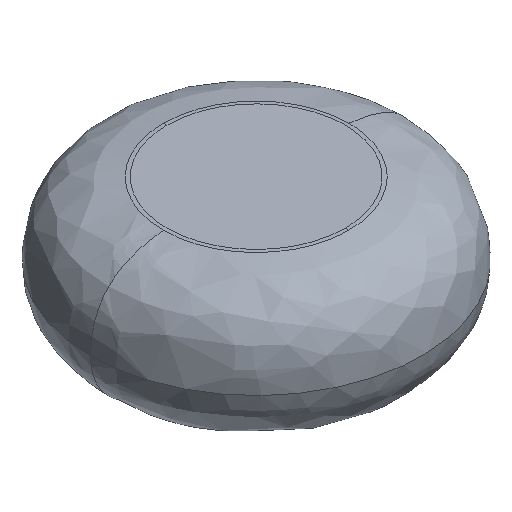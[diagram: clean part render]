
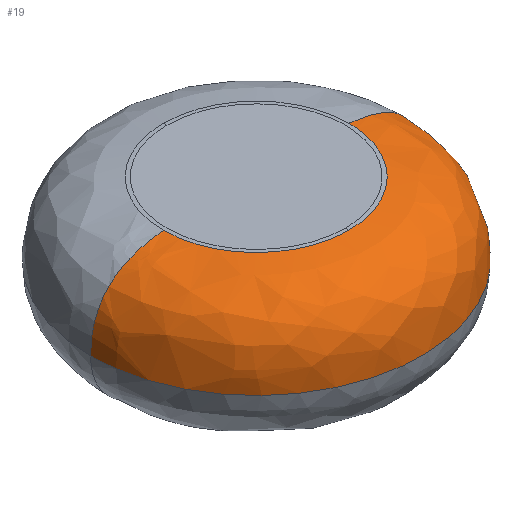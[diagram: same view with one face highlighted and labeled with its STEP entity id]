
A CAD part, isometric view. The second image highlights one B-rep face of the part: STEP entity #19.
In plain terms, the highlighted free-form (B-spline) face has degree [3, 3] with [4, 4] control points.
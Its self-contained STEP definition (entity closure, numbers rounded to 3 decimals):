
#19=ADVANCED_FACE('',(#29),#153,.T.);
#29=FACE_OUTER_BOUND('',#39,.T.);
#39=EDGE_LOOP('',(#65,#66,#67,#68,#69));
#65=ORIENTED_EDGE('',*,*,#103,.F.);
#66=ORIENTED_EDGE('',*,*,#104,.T.);
#67=ORIENTED_EDGE('',*,*,#92,.F.);
#68=ORIENTED_EDGE('',*,*,#100,.F.);
#69=ORIENTED_EDGE('',*,*,#107,.F.);
#92=EDGE_CURVE('',#140,#136,#114,.T.);
#100=EDGE_CURVE('',#146,#140,#122,.T.);
#103=EDGE_CURVE('',#135,#138,#125,.T.);
#104=EDGE_CURVE('',#135,#136,#126,.T.);
#107=EDGE_CURVE('',#138,#146,#129,.T.);
#114=(
BOUNDED_CURVE()
B_SPLINE_CURVE(3,(#603,#604,#605,#606),.UNSPECIFIED.,.F.,.F.)
B_SPLINE_CURVE_WITH_KNOTS((4,4),(-0.987,0.),.UNSPECIFIED.)
CURVE()
GEOMETRIC_REPRESENTATION_ITEM()
RATIONAL_B_SPLINE_CURVE((1.,1.,1.,1.))
REPRESENTATION_ITEM('')
);
#122=(
BOUNDED_CURVE()
B_SPLINE_CURVE(2,(#632,#633,#634),.UNSPECIFIED.,.F.,.F.)
B_SPLINE_CURVE_WITH_KNOTS((3,3),(-351.693,0.),.UNSPECIFIED.)
CURVE()
GEOMETRIC_REPRESENTATION_ITEM()
RATIONAL_B_SPLINE_CURVE((1.,0.707,1.))
REPRESENTATION_ITEM('')
);
#125=(
BOUNDED_CURVE()
B_SPLINE_CURVE(3,(#641,#642,#643,#644),.UNSPECIFIED.,.F.,.F.)
B_SPLINE_CURVE_WITH_KNOTS((4,4),(0.,0.987),.UNSPECIFIED.)
CURVE()
GEOMETRIC_REPRESENTATION_ITEM()
RATIONAL_B_SPLINE_CURVE((1.,1.,1.,1.))
REPRESENTATION_ITEM('')
);
#126=(
BOUNDED_CURVE()
B_SPLINE_CURVE(3,(#645,#646,#647,#648),.UNSPECIFIED.,.F.,.F.)
B_SPLINE_CURVE_WITH_KNOTS((4,4),(-1256.637,0.),.UNSPECIFIED.)
CURVE()
GEOMETRIC_REPRESENTATION_ITEM()
RATIONAL_B_SPLINE_CURVE((1.,0.333,0.333,1.))
REPRESENTATION_ITEM('')
);
#129=(
BOUNDED_CURVE()
B_SPLINE_CURVE(2,(#657,#658,#659),.UNSPECIFIED.,.F.,.F.)
B_SPLINE_CURVE_WITH_KNOTS((3,3),(-351.693,0.),.UNSPECIFIED.)
CURVE()
GEOMETRIC_REPRESENTATION_ITEM()
RATIONAL_B_SPLINE_CURVE((1.,0.707,1.))
REPRESENTATION_ITEM('')
);
#135=VERTEX_POINT('',#579);
#136=VERTEX_POINT('',#580);
#138=VERTEX_POINT('',#582);
#140=VERTEX_POINT('',#584);
#146=VERTEX_POINT('',#590);
#153=(
BOUNDED_SURFACE()
B_SPLINE_SURFACE(3,3,((#381,#382,#383,#384),(#385,#386,#387,#388),(#389,
#390,#391,#392),(#393,#394,#395,#396)),.UNSPECIFIED.,.F.,.F.,.F.)
B_SPLINE_SURFACE_WITH_KNOTS((4,4),(4,4),(0.,512.663),(0.,
2400.),.UNSPECIFIED.)
GEOMETRIC_REPRESENTATION_ITEM()
RATIONAL_B_SPLINE_SURFACE(((1.,0.333,0.333,1.),
(1.,0.333,0.333,1.),(1.,0.333,0.333,
1.),(1.,0.333,0.333,1.)))
REPRESENTATION_ITEM('')
SURFACE()
);
#381=CARTESIAN_POINT('',(400.,0.,175.));
#382=CARTESIAN_POINT('',(400.,-800.,175.));
#383=CARTESIAN_POINT('',(-400.,-800.,175.));
#384=CARTESIAN_POINT('',(-400.,0.,175.));
#385=CARTESIAN_POINT('',(400.,0.,281.358));
#386=CARTESIAN_POINT('',(400.,-800.,281.358));
#387=CARTESIAN_POINT('',(-400.,-800.,281.358));
#388=CARTESIAN_POINT('',(-400.,0.,281.358));
#389=CARTESIAN_POINT('',(341.298,0.,339.569));
#390=CARTESIAN_POINT('',(341.298,-682.596,339.569));
#391=CARTESIAN_POINT('',(-341.298,-682.596,339.569));
#392=CARTESIAN_POINT('',(-341.298,0.,339.569));
#393=CARTESIAN_POINT('',(223.895,0.,349.635));
#394=CARTESIAN_POINT('',(223.895,-447.789,349.635));
#395=CARTESIAN_POINT('',(-223.895,-447.789,349.635));
#396=CARTESIAN_POINT('',(-223.895,0.,349.635));
#579=CARTESIAN_POINT('',(-400.,0.,175.));
#580=CARTESIAN_POINT('',(400.,0.,175.));
#582=CARTESIAN_POINT('',(-223.895,0.,349.635));
#584=CARTESIAN_POINT('',(223.895,0.,349.635));
#590=CARTESIAN_POINT('',(0.,-223.895,349.635));
#603=CARTESIAN_POINT('',(223.895,0.,349.635));
#604=CARTESIAN_POINT('',(341.298,0.,339.569));
#605=CARTESIAN_POINT('',(400.,0.,281.358));
#606=CARTESIAN_POINT('',(400.,0.,175.));
#632=CARTESIAN_POINT('',(0.,-223.895,349.635));
#633=CARTESIAN_POINT('',(223.895,-223.895,349.635));
#634=CARTESIAN_POINT('',(223.895,0.,349.635));
#641=CARTESIAN_POINT('',(-400.,0.,175.));
#642=CARTESIAN_POINT('',(-400.,0.,281.358));
#643=CARTESIAN_POINT('',(-341.298,0.,339.569));
#644=CARTESIAN_POINT('',(-223.895,0.,349.635));
#645=CARTESIAN_POINT('',(-400.,0.,175.));
#646=CARTESIAN_POINT('',(-400.,-800.,175.));
#647=CARTESIAN_POINT('',(400.,-800.,175.));
#648=CARTESIAN_POINT('',(400.,0.,175.));
#657=CARTESIAN_POINT('',(-223.895,0.,349.635));
#658=CARTESIAN_POINT('',(-223.895,-223.895,349.635));
#659=CARTESIAN_POINT('',(0.,-223.895,349.635));
